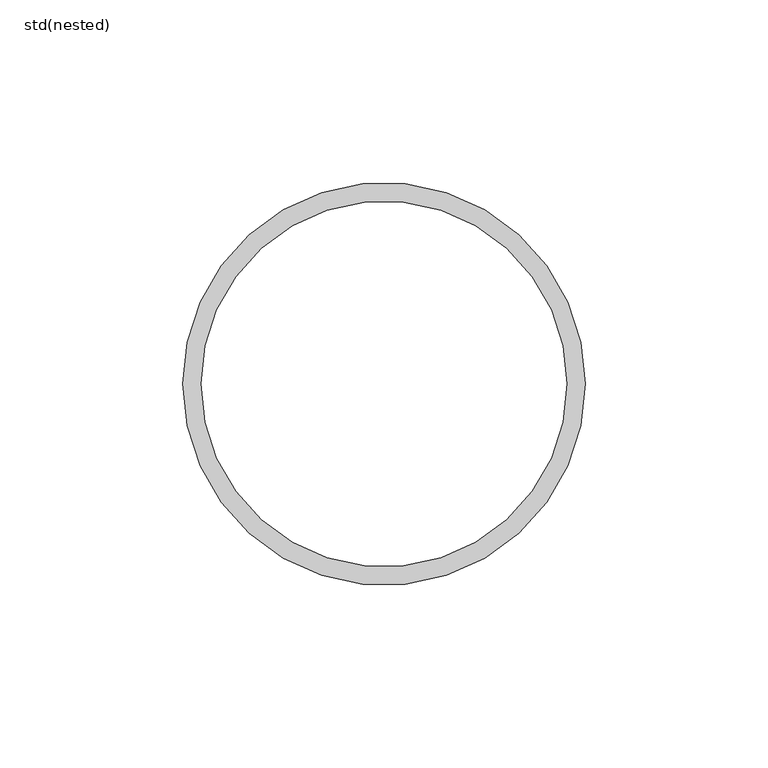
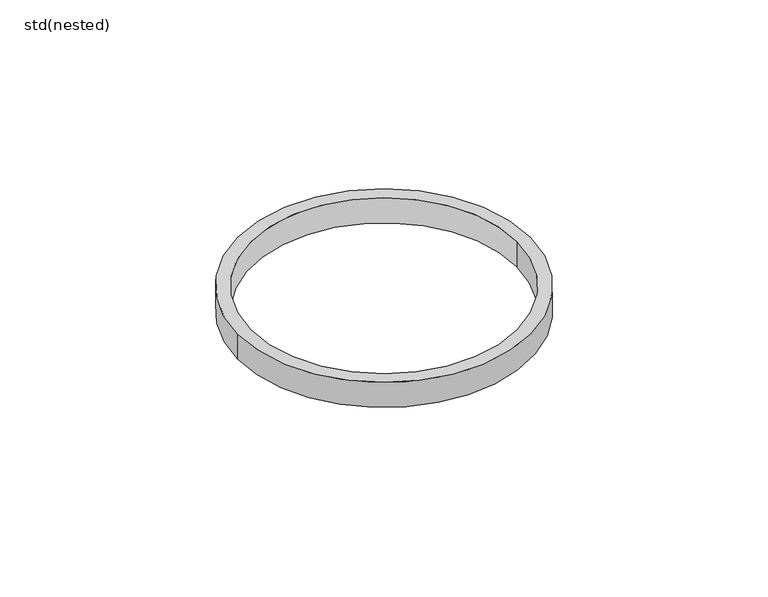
"""IFC4 building model written with IfcOpenShell, lengths in millimetres: pipe fitting geometry, ZZZ_do not use_ME_ST_WPB_Mulimax drill connection_ACO : std(nested)."""

from ifc_helpers import new_model, si_unit, point, origin, origin_with_axes, origin_2d, place, context, project, spatial, circle_curve, trimmed, segment, composite_curve, outline, extrude, source, transform, mapped, element, save


def std_nested_af4d4093(model_context):
    return source(origin(), model_context, "Body", "SweptSolid", [
        extrude(outline(composite_curve([segment(trimmed(circle_curve(origin_2d(), 55.0), [point((-55.0, 0.0))], [point((55.0, 0.0))], False, "CARTESIAN"), True, "CONTINUOUS"), segment(trimmed(circle_curve(origin_2d(), 55.0), [point((55.0, 0.0))], [point((-55.0, 0.0))], False, "CARTESIAN"), True, "CONTINUOUS")], self_intersect=False), holes=[composite_curve([segment(trimmed(circle_curve(origin_2d(), 50.0), [point((-50.0, 0.0))], [point((50.0, 0.0))], True, "CARTESIAN"), True, "CONTINUOUS"), segment(trimmed(circle_curve(origin_2d(), 50.0), [point((50.0, 0.0))], [point((-50.0, 0.0))], True, "CARTESIAN"), True, "CONTINUOUS")], self_intersect=False)]), origin_with_axes(), (0.0, 0.0, 1.0), 10.0),
    ])


if __name__ == "__main__":
    model = new_model("IFC4")
    model_context = context("Model", 3, world=origin())
    ifc_project = project(units=[si_unit("LENGTHUNIT", "METRE", prefix="MILLI")], contexts=[model_context])
    site = spatial("IfcSite", under=ifc_project)
    building = spatial("IfcBuilding", under=site)
    placement = place(None, origin())
    std_nested_shape = std_nested_af4d4093(model_context)
    element("IfcPipeFitting", 1, ObjectType="ZZZ_do not use_ME_ST_WPB_Mulimax drill connection_ACO : std(nested)", at=placement, inside=building, context=model_context, shape_type="MappedRepresentation", body=[
        mapped(std_nested_shape, transform((0.0, 0.0, 0.0), x_axis=(1.0, 0.0, 0.0), y_axis=(0.0, 1.0, 0.0), z_axis=(0.0, 0.0, 1.0))),
    ])
    save(model, "model.ifc")
